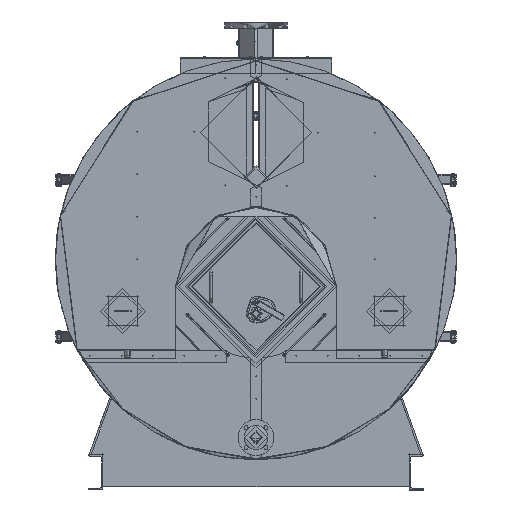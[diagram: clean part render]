
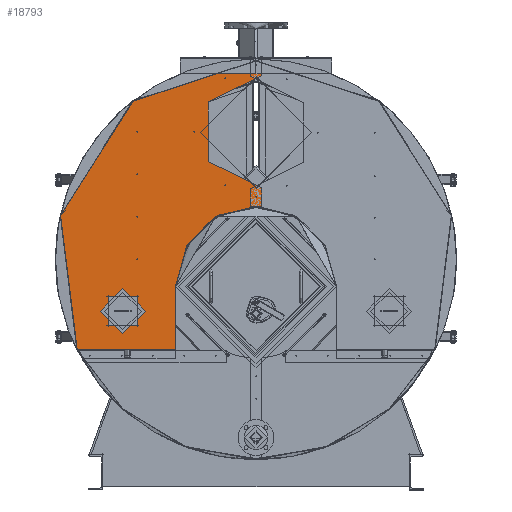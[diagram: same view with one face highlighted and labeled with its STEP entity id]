
A CAD part, left-side view. The second image highlights one B-rep face of the part: STEP entity #18793.
In plain terms, the highlighted planar face has unit normal (-1, 0, 0).
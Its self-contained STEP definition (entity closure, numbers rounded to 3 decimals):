
#18793=ADVANCED_FACE('',(#70544,#70546,#70548,#70550,#70552,#70554,#70556,#70558,
#70560,#70562,#70564,#70566,#70568,#70570,#70572),#70574,.T.);
#70544=FACE_BOUND('',#70545,.T.);
#70545=EDGE_LOOP('',(#87083,#87084,#87085,#87086,#87087,#87088,#87089,#87090));
#70546=FACE_BOUND('',#70547,.T.);
#70547=EDGE_LOOP('',(#87091));
#70548=FACE_BOUND('',#70549,.T.);
#70549=EDGE_LOOP('',(#87092));
#70550=FACE_BOUND('',#70551,.T.);
#70551=EDGE_LOOP('',(#87093));
#70552=FACE_BOUND('',#70553,.T.);
#70553=EDGE_LOOP('',(#87094));
#70554=FACE_BOUND('',#70555,.T.);
#70555=EDGE_LOOP('',(#87095));
#70556=FACE_BOUND('',#70557,.T.);
#70557=EDGE_LOOP('',(#87096));
#70558=FACE_BOUND('',#70559,.T.);
#70559=EDGE_LOOP('',(#87097));
#70560=FACE_BOUND('',#70561,.T.);
#70561=EDGE_LOOP('',(#87098));
#70562=FACE_BOUND('',#70563,.T.);
#70563=EDGE_LOOP('',(#87099));
#70564=FACE_BOUND('',#70565,.T.);
#70565=EDGE_LOOP('',(#87100));
#70566=FACE_BOUND('',#70567,.T.);
#70567=EDGE_LOOP('',(#87101));
#70568=FACE_BOUND('',#70569,.T.);
#70569=EDGE_LOOP('',(#87102));
#70570=FACE_BOUND('',#70571,.T.);
#70571=EDGE_LOOP('',(#87103));
#70572=FACE_BOUND('',#70573,.T.);
#70573=EDGE_LOOP('',(#87104));
#70574=PLANE('',#70575);
#70575=AXIS2_PLACEMENT_3D('',#70576,#70577,#70578);
#70576=CARTESIAN_POINT('',(0.,0.,0.));
#70577=DIRECTION('',(-1.,0.,0.));
#70578=DIRECTION('',(0.,0.,1.));
#87083=ORIENTED_EDGE('',*,*,#93593,.T.);
#87084=ORIENTED_EDGE('',*,*,#93585,.T.);
#87085=ORIENTED_EDGE('',*,*,#93594,.T.);
#87086=ORIENTED_EDGE('',*,*,#93595,.F.);
#87087=ORIENTED_EDGE('',*,*,#93596,.F.);
#87088=ORIENTED_EDGE('',*,*,#93597,.F.);
#87089=ORIENTED_EDGE('',*,*,#93598,.T.);
#87090=ORIENTED_EDGE('',*,*,#93587,.T.);
#87091=ORIENTED_EDGE('',*,*,#93599,.T.);
#87092=ORIENTED_EDGE('',*,*,#93600,.T.);
#87093=ORIENTED_EDGE('',*,*,#93601,.T.);
#87094=ORIENTED_EDGE('',*,*,#93602,.T.);
#87095=ORIENTED_EDGE('',*,*,#93603,.T.);
#87096=ORIENTED_EDGE('',*,*,#93604,.T.);
#87097=ORIENTED_EDGE('',*,*,#93605,.T.);
#87098=ORIENTED_EDGE('',*,*,#93606,.T.);
#87099=ORIENTED_EDGE('',*,*,#93607,.T.);
#87100=ORIENTED_EDGE('',*,*,#93608,.T.);
#87101=ORIENTED_EDGE('',*,*,#93609,.T.);
#87102=ORIENTED_EDGE('',*,*,#93610,.T.);
#87103=ORIENTED_EDGE('',*,*,#93611,.T.);
#87104=ORIENTED_EDGE('',*,*,#93612,.T.);
#93585=EDGE_CURVE('',#101603,#101605,#101607,.T.);
#93587=EDGE_CURVE('',#101611,#101609,#101612,.F.);
#93593=EDGE_CURVE('',#101609,#101603,#101621,.F.);
#93594=EDGE_CURVE('',#101605,#101622,#101623,.F.);
#93595=EDGE_CURVE('',#101624,#101622,#101625,.F.);
#93596=EDGE_CURVE('',#101626,#101624,#101627,.T.);
#93597=EDGE_CURVE('',#101628,#101626,#101629,.T.);
#93598=EDGE_CURVE('',#101628,#101611,#101630,.F.);
#93599=EDGE_CURVE('',#101631,#101631,#101632,.F.);
#93600=EDGE_CURVE('',#101633,#101633,#101634,.F.);
#93601=EDGE_CURVE('',#101635,#101635,#101636,.F.);
#93602=EDGE_CURVE('',#101637,#101637,#101638,.F.);
#93603=EDGE_CURVE('',#101639,#101639,#101640,.F.);
#93604=EDGE_CURVE('',#101641,#101641,#101642,.F.);
#93605=EDGE_CURVE('',#101643,#101643,#101644,.F.);
#93606=EDGE_CURVE('',#101645,#101645,#101646,.F.);
#93607=EDGE_CURVE('',#101647,#101647,#101648,.F.);
#93608=EDGE_CURVE('',#101649,#101649,#101650,.F.);
#93609=EDGE_CURVE('',#101651,#101651,#101652,.F.);
#93610=EDGE_CURVE('',#101653,#101653,#101654,.F.);
#93611=EDGE_CURVE('',#101655,#101655,#101656,.F.);
#93612=EDGE_CURVE('',#101657,#101657,#101658,.F.);
#101603=VERTEX_POINT('',#150103);
#101605=VERTEX_POINT('',#150144);
#101607=CIRCLE('',#150188,895.);
#101609=VERTEX_POINT('',#150193);
#101611=VERTEX_POINT('',#150197);
#101612=CIRCLE('',#150198,252.);
#101621=LINE('',#150271,#150272);
#101622=VERTEX_POINT('',#150274);
#101623=LINE('',#150275,#150276);
#101624=VERTEX_POINT('',#150278);
#101625=LINE('',#150279,#150280);
#101626=VERTEX_POINT('',#150282);
#101627=LINE('',#150283,#150284);
#101628=VERTEX_POINT('',#150286);
#101629=CIRCLE('',#150287,360.);
#101630=LINE('',#150291,#150292);
#101631=VERTEX_POINT('',#150294);
#101632=CIRCLE('',#150295,82.5);
#101633=VERTEX_POINT('',#150299);
#101634=CIRCLE('',#150300,2.05);
#101635=VERTEX_POINT('',#150304);
#101636=CIRCLE('',#150305,2.05);
#101637=VERTEX_POINT('',#150309);
#101638=CIRCLE('',#150310,2.05);
#101639=VERTEX_POINT('',#150314);
#101640=CIRCLE('',#150315,2.05);
#101641=VERTEX_POINT('',#150319);
#101642=CIRCLE('',#150320,2.05);
#101643=VERTEX_POINT('',#150324);
#101644=CIRCLE('',#150325,2.05);
#101645=VERTEX_POINT('',#150329);
#101646=CIRCLE('',#150330,2.05);
#101647=VERTEX_POINT('',#150334);
#101648=CIRCLE('',#150335,2.05);
#101649=VERTEX_POINT('',#150339);
#101650=CIRCLE('',#150340,2.05);
#101651=VERTEX_POINT('',#150344);
#101652=CIRCLE('',#150345,1.25);
#101653=VERTEX_POINT('',#150349);
#101654=CIRCLE('',#150350,1.25);
#101655=VERTEX_POINT('',#150354);
#101656=CIRCLE('',#150355,1.25);
#101657=VERTEX_POINT('',#150359);
#101658=CIRCLE('',#150360,1.25);
#150103=CARTESIAN_POINT('',(0.,-25.,894.651));
#150144=CARTESIAN_POINT('',(0.,799.235,-402.8));
#150188=AXIS2_PLACEMENT_3D('',#150189,#150190,#150191);
#150189=CARTESIAN_POINT('',(0.,0.,0.));
#150190=DIRECTION('',(-1.,0.,0.));
#150191=DIRECTION('',(0.,-0.028,1.));
#150193=CARTESIAN_POINT('',(0.,-25.,820.757));
#150197=CARTESIAN_POINT('',(0.,-25.,319.243));
#150198=AXIS2_PLACEMENT_3D('',#150199,#150200,#150201);
#150199=CARTESIAN_POINT('',(0.,0.,570.));
#150200=DIRECTION('',(-1.,0.,0.));
#150201=DIRECTION('',(0.,-0.099,0.995));
#150271=CARTESIAN_POINT('',(0.,-25.,894.651));
#150272=VECTOR('',#150273,1.);
#150273=DIRECTION('',(0.,0.,-1.));
#150274=CARTESIAN_POINT('',(0.,795.,-402.8));
#150275=CARTESIAN_POINT('',(0.,795.,-402.8));
#150276=VECTOR('',#150277,1.);
#150277=DIRECTION('',(0.,1.,0.));
#150278=CARTESIAN_POINT('',(0.,360.,-402.8));
#150279=CARTESIAN_POINT('',(0.,795.,-402.8));
#150280=VECTOR('',#150281,1.);
#150281=DIRECTION('',(0.,-1.,0.));
#150282=CARTESIAN_POINT('',(0.,360.,-122.));
#150283=CARTESIAN_POINT('',(0.,360.,-122.));
#150284=VECTOR('',#150285,1.);
#150285=DIRECTION('',(0.,0.,-1.));
#150286=CARTESIAN_POINT('',(0.,-25.,237.131));
#150287=AXIS2_PLACEMENT_3D('',#150288,#150289,#150290);
#150288=CARTESIAN_POINT('',(0.,0.,-122.));
#150289=DIRECTION('',(-1.,0.,0.));
#150290=DIRECTION('',(0.,-0.069,0.998));
#150291=CARTESIAN_POINT('',(0.,-25.,319.243));
#150292=VECTOR('',#150293,1.);
#150293=DIRECTION('',(0.,0.,-1.));
#150294=CARTESIAN_POINT('',(0.,512.5,-231.));
#150295=AXIS2_PLACEMENT_3D('',#150296,#150297,#150298);
#150296=CARTESIAN_POINT('',(0.,595.,-231.));
#150297=DIRECTION('',(-1.,0.,0.));
#150298=DIRECTION('',(-0.,-1.,0.));
#150299=CARTESIAN_POINT('',(0.,135.45,331.843));
#150300=AXIS2_PLACEMENT_3D('',#150301,#150302,#150303);
#150301=CARTESIAN_POINT('',(0.,137.5,331.843));
#150302=DIRECTION('',(-1.,0.,0.));
#150303=DIRECTION('',(-0.,-1.,0.));
#150304=CARTESIAN_POINT('',(0.,-2.05,280.));
#150305=AXIS2_PLACEMENT_3D('',#150306,#150307,#150308);
#150306=CARTESIAN_POINT('',(0.,0.,280.));
#150307=DIRECTION('',(-1.,0.,0.));
#150308=DIRECTION('',(-0.,-1.,0.));
#150309=CARTESIAN_POINT('',(0.,527.95,380.));
#150310=AXIS2_PLACEMENT_3D('',#150311,#150312,#150313);
#150311=CARTESIAN_POINT('',(0.,530.,380.));
#150312=DIRECTION('',(-1.,0.,0.));
#150313=DIRECTION('',(-0.,-1.,0.));
#150314=CARTESIAN_POINT('',(0.,527.95,190.));
#150315=AXIS2_PLACEMENT_3D('',#150316,#150317,#150318);
#150316=CARTESIAN_POINT('',(0.,530.,190.));
#150317=DIRECTION('',(-1.,0.,0.));
#150318=DIRECTION('',(-0.,-1.,0.));
#150319=CARTESIAN_POINT('',(0.,135.45,808.157));
#150320=AXIS2_PLACEMENT_3D('',#150321,#150322,#150323);
#150321=CARTESIAN_POINT('',(0.,137.5,808.157));
#150322=DIRECTION('',(-1.,0.,0.));
#150323=DIRECTION('',(-0.,-1.,0.));
#150324=CARTESIAN_POINT('',(0.,272.95,570.));
#150325=AXIS2_PLACEMENT_3D('',#150326,#150327,#150328);
#150326=CARTESIAN_POINT('',(0.,275.,570.));
#150327=DIRECTION('',(-1.,0.,0.));
#150328=DIRECTION('',(-0.,-1.,0.));
#150329=CARTESIAN_POINT('',(0.,-2.05,870.));
#150330=AXIS2_PLACEMENT_3D('',#150331,#150332,#150333);
#150331=CARTESIAN_POINT('',(0.,0.,870.));
#150332=DIRECTION('',(-1.,0.,0.));
#150333=DIRECTION('',(-0.,-1.,0.));
#150334=CARTESIAN_POINT('',(0.,527.95,0.));
#150335=AXIS2_PLACEMENT_3D('',#150336,#150337,#150338);
#150336=CARTESIAN_POINT('',(0.,530.,0.));
#150337=DIRECTION('',(-1.,0.,0.));
#150338=DIRECTION('',(-0.,-1.,0.));
#150339=CARTESIAN_POINT('',(0.,527.95,570.));
#150340=AXIS2_PLACEMENT_3D('',#150341,#150342,#150343);
#150341=CARTESIAN_POINT('',(0.,530.,570.));
#150342=DIRECTION('',(-1.,0.,0.));
#150343=DIRECTION('',(-0.,-1.,0.));
#150344=CARTESIAN_POINT('',(0.,659.157,-165.593));
#150345=AXIS2_PLACEMENT_3D('',#150346,#150347,#150348);
#150346=CARTESIAN_POINT('',(0.,660.407,-165.593));
#150347=DIRECTION('',(-1.,0.,0.));
#150348=DIRECTION('',(-0.,-1.,0.));
#150349=CARTESIAN_POINT('',(0.,528.343,-296.407));
#150350=AXIS2_PLACEMENT_3D('',#150351,#150352,#150353);
#150351=CARTESIAN_POINT('',(0.,529.593,-296.407));
#150352=DIRECTION('',(-1.,0.,0.));
#150353=DIRECTION('',(-0.,-1.,0.));
#150354=CARTESIAN_POINT('',(0.,659.157,-296.407));
#150355=AXIS2_PLACEMENT_3D('',#150356,#150357,#150358);
#150356=CARTESIAN_POINT('',(0.,660.407,-296.407));
#150357=DIRECTION('',(-1.,0.,0.));
#150358=DIRECTION('',(-0.,-1.,0.));
#150359=CARTESIAN_POINT('',(0.,528.343,-165.593));
#150360=AXIS2_PLACEMENT_3D('',#150361,#150362,#150363);
#150361=CARTESIAN_POINT('',(0.,529.593,-165.593));
#150362=DIRECTION('',(-1.,0.,0.));
#150363=DIRECTION('',(-0.,-1.,0.));
